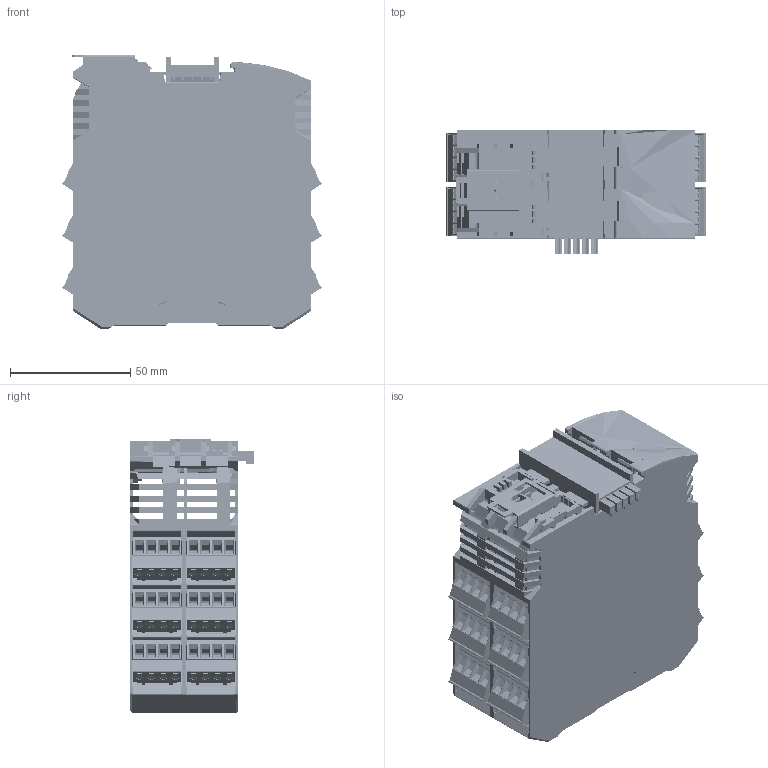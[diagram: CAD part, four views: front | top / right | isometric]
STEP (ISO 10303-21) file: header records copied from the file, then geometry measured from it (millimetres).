
FILE_DESCRIPTION(('STEP AP214'), '1');
FILE_NAME('NLS-4RS485-Ethernet 瞁瞁瞁碨瀅瀅', '2026-06-08T14:36:17', (''), (''), 'C3D Converter', 'C3D Toolkit', '');
FILE_SCHEMA(('AUTOMOTIVE_DESIGN { 1 0 10303 214 3 1 1}'));
Length unit declared in the file: millimetre
Bounding box: 107.97 x 51.8 x 114.2 mm (x, y, z)
Topology: 75 solids, 89 shells, 19383 faces, 55188 edges, 36205 vertices
Faces by surface type: plane 13321, cylinder 2767, extrusion 2731, torus 218, cone 186, sphere 113, bspline 34, revolution 13
Full cylindrical faces by diameter (mm): 0.6 x4, 0.8 x10, 1 x2, 1.4 x48, 1.5 x47, 1.6 x21, 2 x26, 2.5 x1, 2.8 x25, 3 x64, 3.1 x48, 3.3 x2, 4 x96, 4.5 x1
Entity records: 814472 total; most frequent: CARTESIAN_POINT 167886, ORIENTED_EDGE 108777, DIRECTION 88125, EDGE_CURVE 54401, VECTOR 44290, LINE 41559, VERTEX_POINT 36196, AXIS2_PLACEMENT_3D 21911
